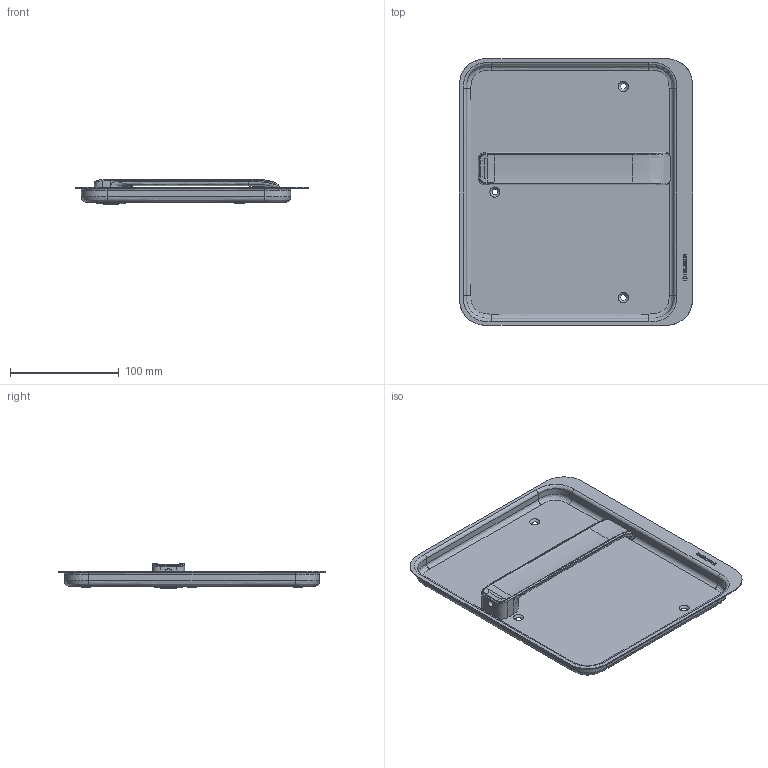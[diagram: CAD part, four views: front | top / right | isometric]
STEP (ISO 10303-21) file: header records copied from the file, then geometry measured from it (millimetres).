
FILE_DESCRIPTION(/* description */ (''),/* implementation_level */ '2;1');
FILE_NAME(/* name */ 'C:\ADSK_DMS_WS\Designs\Vorschläge\Loc Schalen\Muschel Serie 9\S9.13.D3\Heusser-Muschel S9.13.D3.0R.stp',/* time_stamp */ '2020-10-13T16:24:51+02:00',/* author */ ('gm'),/* organization */ (''),/* preprocessor_version */ 'ST-DEVELOPER v16.5',/* originating_system */ 'Autodesk Inventor 2017',/* authorisation */ '');
FILE_SCHEMA (('AUTOMOTIVE_DESIGN { 1 0 10303 214 3 1 1 }'));
Length unit declared in the file: millimetre
Products named in the file (1): S9.13.D3.0R
Bounding box: 214 x 245 x 23 mm (x, y, z)
Volume: 95960.5 mm3; surface area: 137762.1 mm2
Topology: 1 solids, 2 shells, 327 faces, 843 edges, 546 vertices
Faces by surface type: bspline 160, plane 131, cylinder 20, cone 16
Full cylindrical faces by diameter (mm): 1.7 x2, 14.2 x1, 16 x3, 18 x1, 19 x1, 19.1 x1, 23 x1, 23.2 x1, 24 x1, 25 x1, 26 x1, 28 x1
Entity records: 18312 total; most frequent: CARTESIAN_POINT 11071, ORIENTED_EDGE 1612, DIRECTION 953, EDGE_CURVE 806, VERTEX_POINT 540, LINE 411, VECTOR 411, EDGE_LOOP 402
